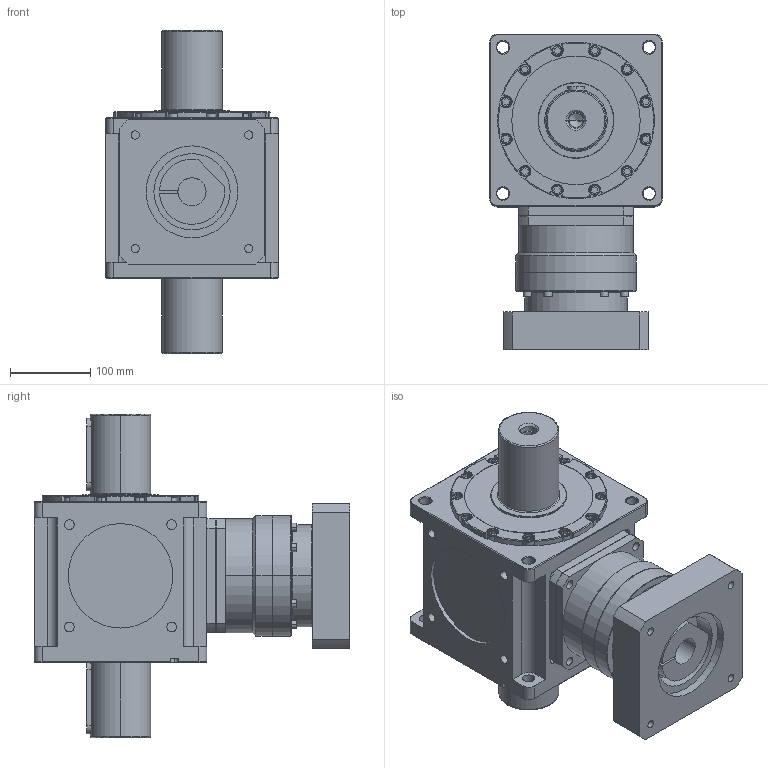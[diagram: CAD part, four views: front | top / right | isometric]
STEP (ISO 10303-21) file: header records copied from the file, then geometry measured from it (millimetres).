
FILE_DESCRIPTION (( 'STEP AP214' ), '1' );
FILE_NAME ('CCW215A-L1(6-20)-2P 35-114.3-200-M12.STEP', '2025-05-28T07:56:15', ( '微软用户' ), ( '微软中国' ), 'SwSTEP 2.0', 'SolidWorks 2024', '' );
FILE_SCHEMA (( 'AUTOMOTIVE_DESIGN' ));
Length unit declared in the file: millimetre
Products named in the file (4): CCW215A行星垫板; VRB-142-L1-S2-P1 35-114.3-200-M12; CCW215A-L1(6-20)-2P 35-114.3-200-M12; CCW215A-002-2P箱体
Assembly tree (3 placements, depth 2):
  CCW215A-L1(6-20)-2P 35-114.3-200-M12
    VRB-142-L1-S2-P1 35-114.3-200-M12
    CCW215A-002-2P箱体
    CCW215A行星垫板
Bounding box: 215 x 393 x 402.5 mm (x, y, z)
Volume: 12802007.1 mm3; surface area: 605894.1 mm2
Topology: 3 solids, 3 shells, 787 faces, 1901 edges, 1193 vertices
Faces by surface type: plane 331, cylinder 299, torus 73, cone 60, bspline 24
Entity records: 24224 total; most frequent: CARTESIAN_POINT 5214, DIRECTION 4183, ORIENTED_EDGE 3790, EDGE_CURVE 1895, AXIS2_PLACEMENT_3D 1592, VERTEX_POINT 1193, LINE 999, VECTOR 999
